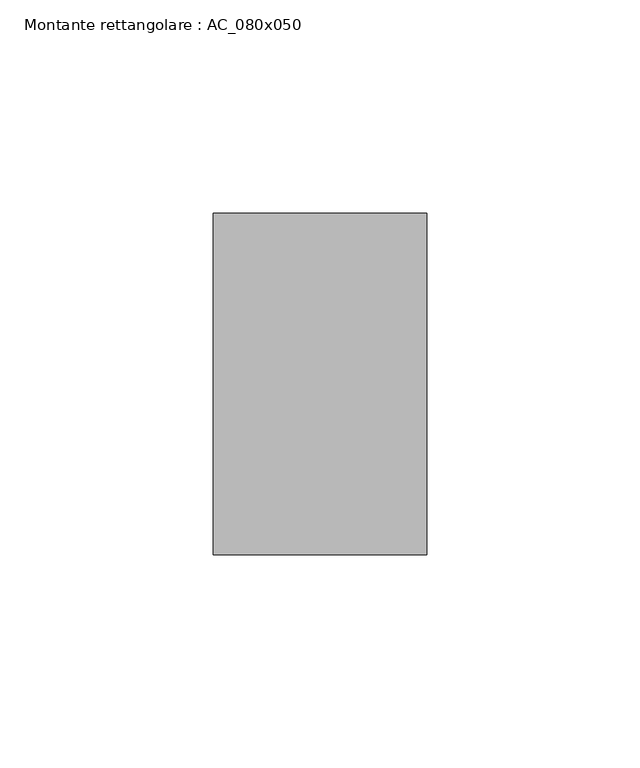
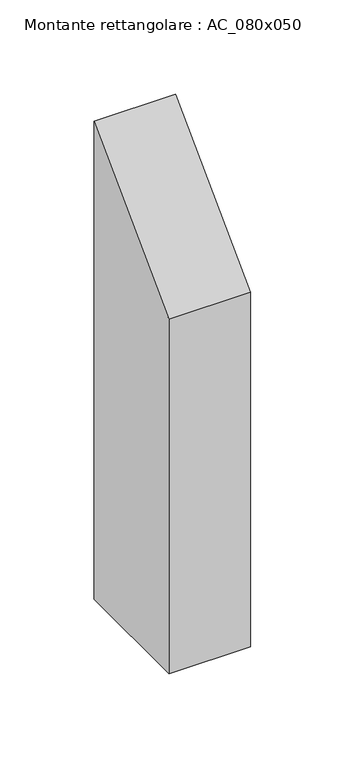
"""IFC4 building model written with IfcOpenShell, lengths in millimetres: member geometry, Montante rettangolare : AC_080x050."""

from ifc_helpers import new_model, si_unit, frame, origin, place, context, project, spatial, polyline, outline, extrude, source, transform, mapped, element, save


def montante_rettangolare_ac_080x050_1630a953(model_context):
    return source(origin(), model_context, "Body", "SweptSolid", [
        extrude(outline(polyline([(-40.0, -40.0), (40.0, 40.0), (40.0, -270.0), (-40.0, -270.0), (-40.0, -40.0)])), frame((-50.0, 0.0, 0.0), z_axis=(1.0, 0.0, 0.0), x_axis=(0.0, 1.0, 0.0)), (0.0, 0.0, 1.0), 50.0),
    ])


if __name__ == "__main__":
    model = new_model("IFC4")
    model_context = context("Model", 3, world=origin())
    ifc_project = project(units=[si_unit("LENGTHUNIT", "METRE", prefix="MILLI")], contexts=[model_context])
    site = spatial("IfcSite", under=ifc_project)
    building = spatial("IfcBuilding", under=site)
    placement = place(None, origin())
    montante_rettangolare_ac_080x050_shape = montante_rettangolare_ac_080x050_1630a953(model_context)
    element("IfcMember", 1, ObjectType="Montante rettangolare : AC_080x050", at=placement, inside=building, context=model_context, shape_type="MappedRepresentation", body=[
        mapped(montante_rettangolare_ac_080x050_shape, transform((0.0, 0.0, 0.0), x_axis=(1.0, 0.0, 0.0), y_axis=(0.0, 1.0, 0.0), z_axis=(0.0, 0.0, 1.0))),
    ])
    save(model, "model.ifc")
